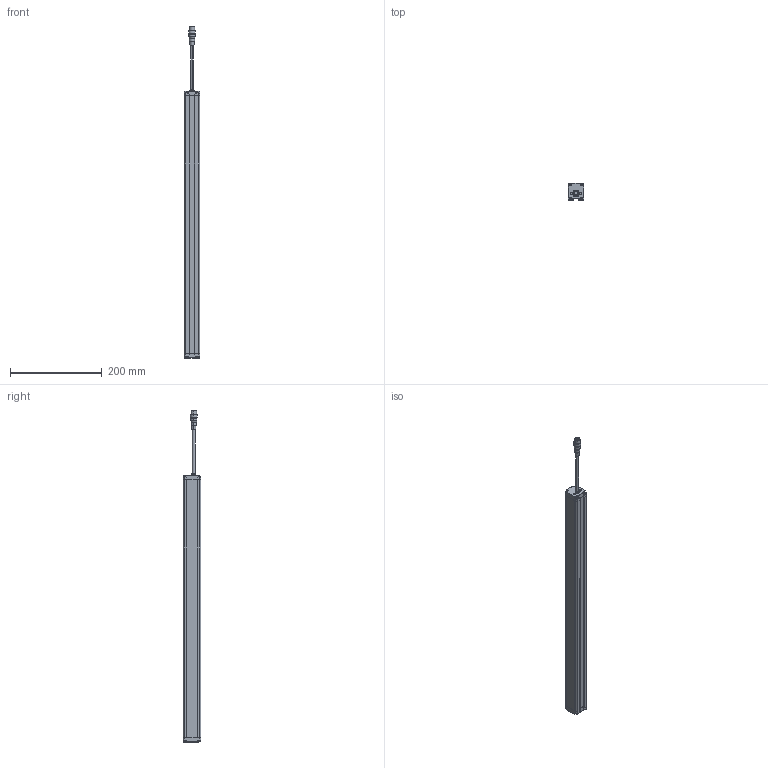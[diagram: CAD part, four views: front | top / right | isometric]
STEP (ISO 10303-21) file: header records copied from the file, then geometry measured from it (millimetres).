
FILE_DESCRIPTION((''),'2;1');
FILE_NAME('PRT0009','2026-03-31T10:10:45',('Administrator'),(''),'CREO PARAMETRIC BY PTC INC, 2016510','CREO PARAMETRIC BY PTC INC, 2016510','');
FILE_SCHEMA(('AUTOMOTIVE_DESIGN { 1 0 10303 214 1 1 1 1 }'));
Length unit declared in the file: millimetre
Products named in the file (1): PRT0009
Bounding box: 33 x 38 x 721.9 mm (x, y, z)
Surface area: 134599.4 mm2 (no closed solid volume)
Topology: 0 solids, 12 shells, 819 faces, 2194 edges, 1394 vertices
Faces by surface type: plane 388, cylinder 235, extrusion 88, sphere 40, torus 36, cone 28, bspline 4
Entity records: 32449 total; most frequent: CARTESIAN_POINT 6132, ORIENTED_EDGE 4284, DIRECTION 4044, EDGE_CURVE 2142, VERTEX_POINT 1394, AXIS2_PLACEMENT_3D 1375, VECTOR 1294, LINE 1206
